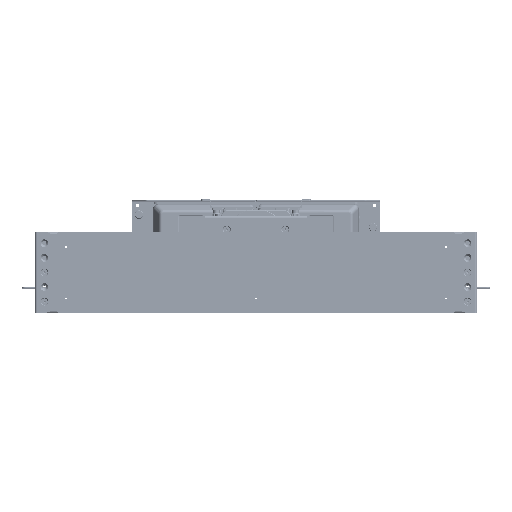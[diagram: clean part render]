
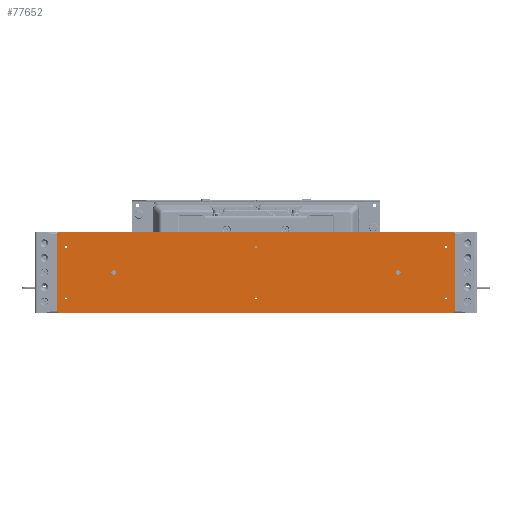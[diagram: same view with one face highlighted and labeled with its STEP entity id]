
A CAD part, top view. The second image highlights one B-rep face of the part: STEP entity #77652.
In plain terms, the highlighted planar face has unit normal (0, 0, 1) as drawn and (0, -1, 0) by its records, which use the part's own axes.
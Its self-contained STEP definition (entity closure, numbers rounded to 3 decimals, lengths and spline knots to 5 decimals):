
#10183=LINE('',#132937,#16472);
#10184=LINE('',#132942,#16473);
#10185=LINE('',#132946,#16474);
#10186=LINE('',#132950,#16475);
#16472=VECTOR('',#106929,1.);
#16473=VECTOR('',#106932,1.);
#16474=VECTOR('',#106935,1.);
#16475=VECTOR('',#106938,1.);
#33467=ORIENTED_EDGE('',*,*,#46914,.F.);
#33468=ORIENTED_EDGE('',*,*,#46915,.T.);
#33469=ORIENTED_EDGE('',*,*,#46916,.F.);
#33470=ORIENTED_EDGE('',*,*,#46917,.T.);
#33471=ORIENTED_EDGE('',*,*,#46918,.T.);
#33472=ORIENTED_EDGE('',*,*,#46919,.T.);
#33473=ORIENTED_EDGE('',*,*,#46920,.T.);
#33474=ORIENTED_EDGE('',*,*,#46921,.T.);
#33475=ORIENTED_EDGE('',*,*,#46913,.F.);
#33476=ORIENTED_EDGE('',*,*,#46911,.F.);
#33477=ORIENTED_EDGE('',*,*,#46909,.F.);
#33478=ORIENTED_EDGE('',*,*,#46906,.F.);
#33479=ORIENTED_EDGE('',*,*,#46903,.F.);
#33480=ORIENTED_EDGE('',*,*,#46900,.F.);
#33481=ORIENTED_EDGE('',*,*,#46897,.F.);
#33482=ORIENTED_EDGE('',*,*,#46894,.F.);
#46894=EDGE_CURVE('',#54926,#54926,#59003,.T.);
#46897=EDGE_CURVE('',#54929,#54929,#59006,.T.);
#46900=EDGE_CURVE('',#54932,#54932,#59009,.T.);
#46903=EDGE_CURVE('',#54935,#54935,#59012,.T.);
#46906=EDGE_CURVE('',#54938,#54938,#59015,.T.);
#46909=EDGE_CURVE('',#54941,#54941,#59018,.T.);
#46911=EDGE_CURVE('',#54943,#54943,#59020,.T.);
#46913=EDGE_CURVE('',#54945,#54945,#59022,.T.);
#46914=EDGE_CURVE('',#54946,#54947,#10183,.T.);
#46915=EDGE_CURVE('',#54946,#54948,#59023,.T.);
#46916=EDGE_CURVE('',#54949,#54948,#10184,.T.);
#46917=EDGE_CURVE('',#54949,#54950,#59024,.T.);
#46918=EDGE_CURVE('',#54950,#54951,#10185,.T.);
#46919=EDGE_CURVE('',#54951,#54952,#59025,.T.);
#46920=EDGE_CURVE('',#54952,#54953,#10186,.T.);
#46921=EDGE_CURVE('',#54953,#54947,#59026,.T.);
#54926=VERTEX_POINT('',#132885);
#54929=VERTEX_POINT('',#132893);
#54932=VERTEX_POINT('',#132901);
#54935=VERTEX_POINT('',#132909);
#54938=VERTEX_POINT('',#132917);
#54941=VERTEX_POINT('',#132925);
#54943=VERTEX_POINT('',#132930);
#54945=VERTEX_POINT('',#132935);
#54946=VERTEX_POINT('',#132938);
#54947=VERTEX_POINT('',#132939);
#54948=VERTEX_POINT('',#132941);
#54949=VERTEX_POINT('',#132943);
#54950=VERTEX_POINT('',#132945);
#54951=VERTEX_POINT('',#132947);
#54952=VERTEX_POINT('',#132949);
#54953=VERTEX_POINT('',#132951);
#59003=CIRCLE('',#88181,0.00225);
#59006=CIRCLE('',#88186,0.00225);
#59009=CIRCLE('',#88191,0.00225);
#59012=CIRCLE('',#88196,0.00225);
#59015=CIRCLE('',#88201,0.00225);
#59018=CIRCLE('',#88206,0.00225);
#59020=CIRCLE('',#88209,0.00396);
#59022=CIRCLE('',#88212,0.00396);
#59023=CIRCLE('',#88214,0.00318);
#59024=CIRCLE('',#88215,0.00318);
#59025=CIRCLE('',#88216,0.00318);
#59026=CIRCLE('',#88217,0.00318);
#64204=EDGE_LOOP('',(#33467,#33468,#33469,#33470,#33471,#33472,#33473,#33474));
#64205=EDGE_LOOP('',(#33475));
#64206=EDGE_LOOP('',(#33476));
#64207=EDGE_LOOP('',(#33477));
#64208=EDGE_LOOP('',(#33478));
#64209=EDGE_LOOP('',(#33479));
#64210=EDGE_LOOP('',(#33480));
#64211=EDGE_LOOP('',(#33481));
#64212=EDGE_LOOP('',(#33482));
#70208=FACE_BOUND('',#64204,.T.);
#70209=FACE_BOUND('',#64205,.T.);
#70210=FACE_BOUND('',#64206,.T.);
#70211=FACE_BOUND('',#64207,.T.);
#70212=FACE_BOUND('',#64208,.T.);
#70213=FACE_BOUND('',#64209,.T.);
#70214=FACE_BOUND('',#64210,.T.);
#70215=FACE_BOUND('',#64211,.T.);
#70216=FACE_BOUND('',#64212,.T.);
#74046=PLANE('',#88213);
#77652=ADVANCED_FACE('',(#70208,#70209,#70210,#70211,#70212,#70213,#70214,
#70215,#70216),#74046,.T.);
#88181=AXIS2_PLACEMENT_3D('',#132884,#106863,#106864);
#88186=AXIS2_PLACEMENT_3D('',#132892,#106873,#106874);
#88191=AXIS2_PLACEMENT_3D('',#132900,#106883,#106884);
#88196=AXIS2_PLACEMENT_3D('',#132908,#106893,#106894);
#88201=AXIS2_PLACEMENT_3D('',#132916,#106903,#106904);
#88206=AXIS2_PLACEMENT_3D('',#132924,#106913,#106914);
#88209=AXIS2_PLACEMENT_3D('',#132929,#106919,#106920);
#88212=AXIS2_PLACEMENT_3D('',#132934,#106925,#106926);
#88213=AXIS2_PLACEMENT_3D('',#132936,#106927,#106928);
#88214=AXIS2_PLACEMENT_3D('',#132940,#106930,#106931);
#88215=AXIS2_PLACEMENT_3D('',#132944,#106933,#106934);
#88216=AXIS2_PLACEMENT_3D('',#132948,#106936,#106937);
#88217=AXIS2_PLACEMENT_3D('',#132952,#106939,#106940);
#106863=DIRECTION('',(0.,-1.,0.));
#106864=DIRECTION('',(1.,0.,0.));
#106873=DIRECTION('',(0.,-1.,0.));
#106874=DIRECTION('',(1.,0.,0.));
#106883=DIRECTION('',(0.,-1.,0.));
#106884=DIRECTION('',(1.,0.,0.));
#106893=DIRECTION('',(0.,-1.,0.));
#106894=DIRECTION('',(1.,0.,0.));
#106903=DIRECTION('',(0.,-1.,0.));
#106904=DIRECTION('',(1.,0.,0.));
#106913=DIRECTION('',(0.,-1.,0.));
#106914=DIRECTION('',(1.,0.,0.));
#106919=DIRECTION('',(0.,-1.,0.));
#106920=DIRECTION('',(1.,0.,0.));
#106925=DIRECTION('',(0.,-1.,0.));
#106926=DIRECTION('',(1.,0.,0.));
#106927=DIRECTION('',(0.,-1.,0.));
#106928=DIRECTION('',(1.,0.,0.));
#106929=DIRECTION('',(0.,0.,1.));
#106930=DIRECTION('',(0.,-1.,0.));
#106931=DIRECTION('',(1.,0.,0.));
#106932=DIRECTION('',(-1.,0.,0.));
#106933=DIRECTION('',(0.,-1.,0.));
#106934=DIRECTION('',(1.,0.,0.));
#106935=DIRECTION('',(0.,0.,1.));
#106936=DIRECTION('',(0.,-1.,0.));
#106937=DIRECTION('',(1.,0.,0.));
#106938=DIRECTION('',(-1.,0.,0.));
#106939=DIRECTION('',(0.,-1.,0.));
#106940=DIRECTION('',(1.,0.,0.));
#132884=CARTESIAN_POINT('',(0.62548,-0.76109,-0.05766));
#132885=CARTESIAN_POINT('',(0.62772,-0.76109,-0.05766));
#132892=CARTESIAN_POINT('',(0.29528,-0.76109,-0.05766));
#132893=CARTESIAN_POINT('',(0.29752,-0.76109,-0.05766));
#132900=CARTESIAN_POINT('',(0.29528,-0.76109,-0.14656));
#132901=CARTESIAN_POINT('',(0.29752,-0.76109,-0.14656));
#132908=CARTESIAN_POINT('',(-0.03493,-0.76109,-0.05766));
#132909=CARTESIAN_POINT('',(-0.03268,-0.76109,-0.05766));
#132916=CARTESIAN_POINT('',(0.62548,-0.76109,-0.14656));
#132917=CARTESIAN_POINT('',(0.62772,-0.76109,-0.14656));
#132924=CARTESIAN_POINT('',(-0.03493,-0.76109,-0.14656));
#132925=CARTESIAN_POINT('',(-0.03268,-0.76109,-0.14656));
#132929=CARTESIAN_POINT('',(0.54242,-0.76109,-0.10211));
#132930=CARTESIAN_POINT('',(0.54638,-0.76109,-0.10211));
#132934=CARTESIAN_POINT('',(0.04813,-0.76109,-0.10211));
#132935=CARTESIAN_POINT('',(0.0521,-0.76109,-0.10211));
#132936=CARTESIAN_POINT('',(0.29528,-0.76109,-0.10211));
#132937=CARTESIAN_POINT('',(-0.0508,-0.76109,-0.10211));
#132938=CARTESIAN_POINT('',(-0.0508,-0.76109,-0.16878));
#132939=CARTESIAN_POINT('',(-0.0508,-0.76109,-0.03543));
#132940=CARTESIAN_POINT('',(-0.04763,-0.76109,-0.16878));
#132941=CARTESIAN_POINT('',(-0.04763,-0.76109,-0.17196));
#132942=CARTESIAN_POINT('',(0.29528,-0.76109,-0.17196));
#132943=CARTESIAN_POINT('',(0.63818,-0.76109,-0.17196));
#132944=CARTESIAN_POINT('',(0.63818,-0.76109,-0.16878));
#132945=CARTESIAN_POINT('',(0.64135,-0.76109,-0.16878));
#132946=CARTESIAN_POINT('',(0.64135,-0.76109,-0.10211));
#132947=CARTESIAN_POINT('',(0.64135,-0.76109,-0.03543));
#132948=CARTESIAN_POINT('',(0.63818,-0.76109,-0.03543));
#132949=CARTESIAN_POINT('',(0.63818,-0.76109,-0.03226));
#132950=CARTESIAN_POINT('',(0.29528,-0.76109,-0.03226));
#132951=CARTESIAN_POINT('',(-0.04763,-0.76109,-0.03226));
#132952=CARTESIAN_POINT('',(-0.04763,-0.76109,-0.03543));
